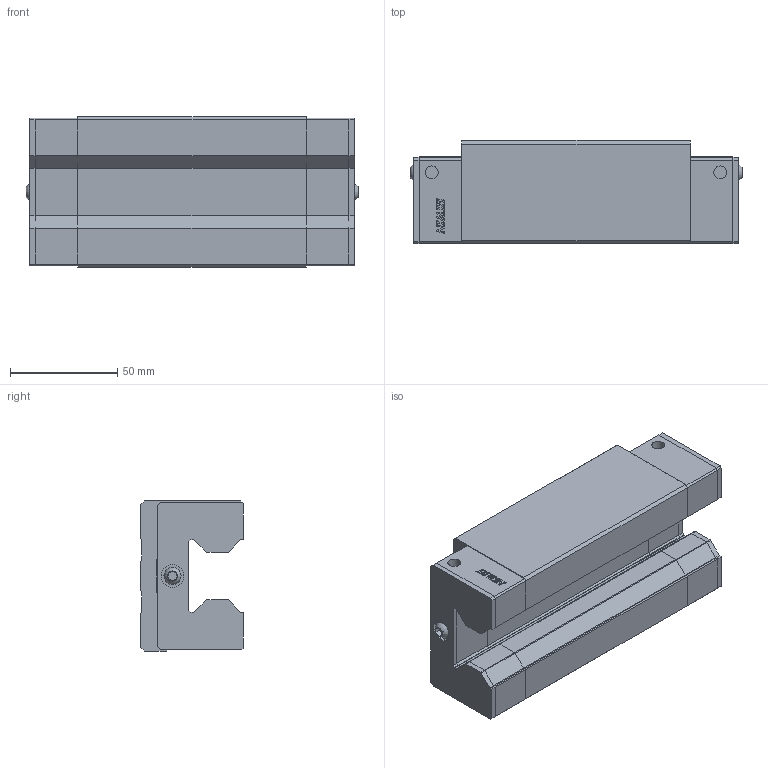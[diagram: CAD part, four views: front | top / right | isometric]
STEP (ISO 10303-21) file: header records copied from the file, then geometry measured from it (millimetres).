
FILE_DESCRIPTION(/* description */ (''),/* implementation_level */ '2;1');
FILE_NAME(/* name */ 'URH35HAZ0H_GW202603049578.stp',/* time_stamp */ '2026-03-30T22:09:37+08:00',/* author */ ('User'),/* organization */ (''),/* preprocessor_version */ 'ST-DEVELOPER v20.1',/* originating_system */ 'Autodesk Inventor 2026',/* authorisation */ '');
FILE_SCHEMA (('AUTOMOTIVE_DESIGN { 1 0 10303 214 3 1 1 }'));
Products named in the file (3): URH35HAZ0H_GW202603049578; URH35H_左封; 31010069
Assembly tree (3 placements, depth 2):
  URH35HAZ0H_GW202603049578
    URH35H_左封
    31010069  x2
Bounding box: 154.9 x 48 x 70 mm (x, y, z)
Volume: 374009.4 mm3; surface area: 68409 mm2
Topology: 7 solids, 7 shells, 522 faces, 1444 edges, 960 vertices
Faces by surface type: plane 380, cylinder 134, cone 6, bspline 2
Full cylindrical faces by diameter (mm): 1.5 x2, 6 x6, 6.5 x2, 6.647 x6, 8 x2, 10.3 x2, 10.5 x2
Entity records: 16364 total; most frequent: CARTESIAN_POINT 2896, ORIENTED_EDGE 2824, DIRECTION 2706, EDGE_CURVE 1412, LINE 1146, VECTOR 1146, VERTEX_POINT 943, AXIS2_PLACEMENT_3D 780
